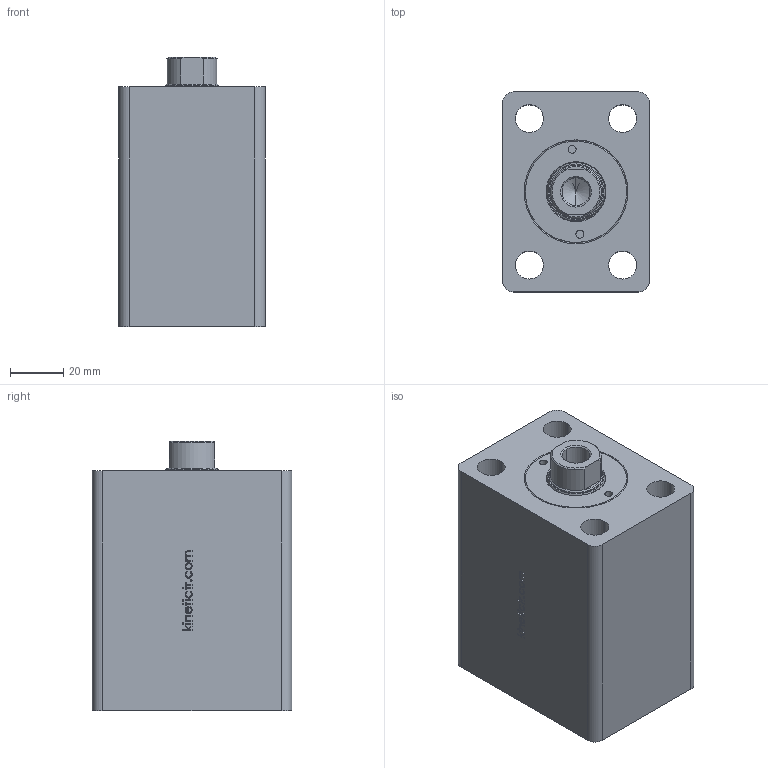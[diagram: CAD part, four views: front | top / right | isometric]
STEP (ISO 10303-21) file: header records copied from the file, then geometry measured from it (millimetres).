
FILE_DESCRIPTION (( 'STEP AP214' ), '1' );
FILE_NAME ('KBZ_02_32_20_40_WEB.STEP', '2020-05-27T09:20:27', ( '' ), ( '' ), 'SwSTEP 2.0', 'SolidWorks 2018', '' );
FILE_SCHEMA (( 'AUTOMOTIVE_DESIGN' ));
Length unit declared in the file: millimetre
Products named in the file (5): 20_K_MIL; KBZ_02_32_ON_kapak_WEB; K06-20X25X4_3X6; KBZ_02_32_20_40_WEB; KBZ_02_32_GOVDE
Assembly tree (4 placements, depth 2):
  KBZ_02_32_20_40_WEB
    KBZ_02_32_GOVDE
    20_K_MIL
    KBZ_02_32_ON_kapak_WEB
    K06-20X25X4_3X6
Bounding box: 55 x 75 x 101 mm (x, y, z)
Volume: 312383.6 mm3; surface area: 61513.8 mm2
Topology: 4 solids, 4 shells, 341 faces, 825 edges, 526 vertices
Faces by surface type: plane 133, cylinder 72, bspline 69, cone 67
Entity records: 13510 total; most frequent: CARTESIAN_POINT 5543, ORIENTED_EDGE 1646, DIRECTION 1438, EDGE_CURVE 823, VERTEX_POINT 526, AXIS2_PLACEMENT_3D 491, VECTOR 456, LINE 456
